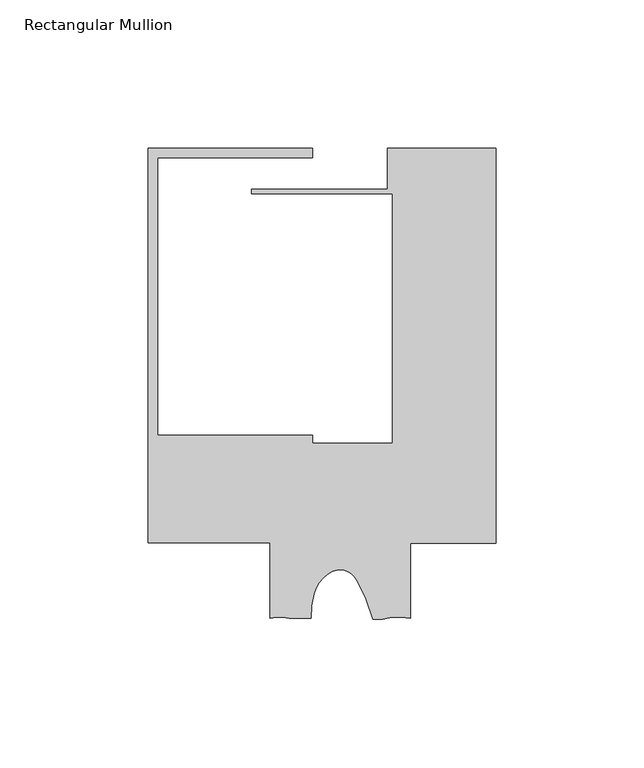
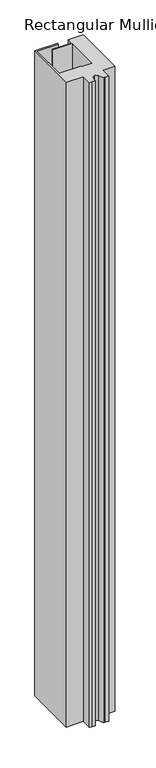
"""IFC4 building model written with IfcOpenShell, lengths in millimetres: member geometry, Rectangular Mullion : SSG Chicken Head Stack."""

import ifcopenshell
import ifcopenshell.guid

model = None  # the IFC model being written
_history = None  # IfcOwnerHistory: only IFC2X3 demands one
_inside = {}  # id of a spatial element -> (the spatial element, [elements in it])
_under = {}  # id of a project, library or spatial element -> (it, [spatial elements below it])
_declared = {}  # id of a project -> (the project, [libraries it declares])
_typed = {}  # id of a type object -> (the type object, [elements of that type])
_made_of = {}  # id of a material, layer set ... -> (it, [elements and type objects made of it])


def new_model(schema):
    """Start an empty IFC model of exactly this schema.

    Asked for "IFC4X3", IfcOpenShell would pick the latest addendum, in which some entities
    have other attributes; the version numbers below select the first issue.
    IFC2X3 requires an IfcOwnerHistory on every rooted entity: one is made here for all.
    """
    global model, _history
    if schema == "IFC4X3":
        model = ifcopenshell.file(schema_version=(4, 3, 0, 0))
    else:
        model = ifcopenshell.file(schema=schema)
    _inside.clear()
    _under.clear()
    _declared.clear()
    _typed.clear()
    _made_of.clear()
    _history = None
    if model.schema == "IFC2X3":
        org = make("IfcOrganization", Name="unknown")
        user = make(
            "IfcPersonAndOrganization",
            ThePerson=make("IfcPerson", FamilyName="unknown"),
            TheOrganization=org,
        )
        app = make(
            "IfcApplication",
            ApplicationDeveloper=org,
            Version="unknown",
            ApplicationFullName="unknown",
            ApplicationIdentifier="unknown",
        )
        _history = make(
            "IfcOwnerHistory",
            OwningUser=user,
            OwningApplication=app,
            ChangeAction="ADDED",
            CreationDate=0,
        )
    return model


def make(cls, **values):
    """One entity of the class cls with the attributes given. An attribute that is None is left unset."""
    return model.create_entity(
        cls, **{name: value for name, value in values.items() if value is not None}
    )


def rooted(cls, **values):
    """An entity with a GlobalId (a new one), such as an element, a storey or a relation."""
    return make(cls, GlobalId=ifcopenshell.guid.new(), OwnerHistory=_history, **values)


def si_unit(unit_type, name, prefix=None):
    """IfcSIUnit, for example si_unit("LENGTHUNIT", "METRE", prefix="MILLI")."""
    return make("IfcSIUnit", UnitType=unit_type, Prefix=prefix, Name=name)


def assignment(units):
    """IfcUnitAssignment: the units of a project."""
    return None if units is None else make("IfcUnitAssignment", Units=units)


def point(xyz):
    """IfcCartesianPoint."""
    return None if xyz is None else make("IfcCartesianPoint", Coordinates=xyz)


def direction(xyz):
    """IfcDirection."""
    return None if xyz is None else make("IfcDirection", DirectionRatios=xyz)


def frame(location, z_axis=None, x_axis=None):
    """IfcAxis2Placement3D, a coordinate frame: its origin and axes. An axis left out is left unset."""
    return make(
        "IfcAxis2Placement3D",
        Location=point(location),
        Axis=direction(z_axis),
        RefDirection=direction(x_axis),
    )


def frame_2d(location, x_axis=None):
    """IfcAxis2Placement2D, a coordinate frame in the plane: its origin and x axis."""
    return make(
        "IfcAxis2Placement2D", Location=point(location), RefDirection=direction(x_axis)
    )


def origin():
    """The frame at (0, 0, 0) with its axes left unset."""
    return frame((0.0, 0.0, 0.0))


def place(relative_to, where):
    """IfcLocalPlacement: puts the frame where relative to a parent placement (None: the world)."""
    return make(
        "IfcLocalPlacement", PlacementRelTo=relative_to, RelativePlacement=where
    )


def context(
    kind, dimensions, precision=None, world=None, true_north=None, identifier=None
):
    """IfcGeometricRepresentationContext, for example the 3D "Model" context."""
    return make(
        "IfcGeometricRepresentationContext",
        ContextIdentifier=identifier,
        ContextType=kind,
        CoordinateSpaceDimension=dimensions,
        Precision=precision,
        WorldCoordinateSystem=world,
        TrueNorth=true_north,
    )


def project(units=None, contexts=None):
    """IfcProject with its units and contexts."""
    return rooted(
        "IfcProject",
        Name="project",
        RepresentationContexts=contexts,
        UnitsInContext=assignment(units),
    )


def spatial(cls, under=None, at=None, **own):
    """A site, building, storey or space (cls), placed at a placement, below another one or the project."""
    s = rooted(cls, ObjectPlacement=at, **own)
    if under is not None:
        _under.setdefault(under.id(), (under, []))[1].append(s)
    return s


def polyline(points):
    """IfcPolyline through the points."""
    return make("IfcPolyline", Points=[point(p) for p in points])


def circle_curve(where, radius):
    """IfcCircle in the frame where."""
    return make("IfcCircle", Position=where, Radius=radius)


def trimmed(basis, trim1, trim2, sense, master):
    """IfcTrimmedCurve: the piece of a basis curve between two trims."""
    return make(
        "IfcTrimmedCurve",
        BasisCurve=basis,
        Trim1=trim1,
        Trim2=trim2,
        SenseAgreement=sense,
        MasterRepresentation=master,
    )


def segment(curve, same_sense, transition):
    """IfcCompositeCurveSegment."""
    return make(
        "IfcCompositeCurveSegment",
        Transition=transition,
        SameSense=same_sense,
        ParentCurve=curve,
    )


def composite_curve(segments, self_intersect=None):
    """IfcCompositeCurve: segments joined end to end."""
    return make("IfcCompositeCurve", Segments=segments, SelfIntersect=self_intersect)


def outline(outer, holes=None, kind="AREA"):
    """IfcArbitraryClosedProfileDef: a profile drawn as a closed curve; with holes, ...WithVoids."""
    if holes is None:
        return make("IfcArbitraryClosedProfileDef", ProfileType=kind, OuterCurve=outer)
    return make(
        "IfcArbitraryProfileDefWithVoids",
        ProfileType=kind,
        OuterCurve=outer,
        InnerCurves=holes,
    )


def extrude(swept, where, along, depth):
    """IfcExtrudedAreaSolid: the profile swept, set in the frame where, extruded along a direction by depth."""
    return make(
        "IfcExtrudedAreaSolid",
        SweptArea=swept,
        Position=where,
        ExtrudedDirection=direction(along),
        Depth=depth,
    )


def shape(context_of_items, identifier, shape_type, items):
    """IfcShapeRepresentation: the items that make up one representation, for example the "Body"."""
    return make(
        "IfcShapeRepresentation",
        ContextOfItems=context_of_items,
        RepresentationIdentifier=identifier,
        RepresentationType=shape_type,
        Items=items,
    )


def source(mapping_origin, context_of_items, identifier, shape_type, items):
    """IfcRepresentationMap: a shape defined once, which mapped items show again and again."""
    return make(
        "IfcRepresentationMap",
        MappingOrigin=mapping_origin,
        MappedRepresentation=shape(context_of_items, identifier, shape_type, items),
    )


def transform(
    local_origin,
    x_axis=None,
    y_axis=None,
    z_axis=None,
    scale=None,
    scale2=None,
    scale3=None,
    uniform=True,
):
    """IfcCartesianTransformationOperator3D, or its non-uniform kind. x_axis, y_axis, z_axis: its Axis1, 2, 3."""
    if uniform:
        return make(
            "IfcCartesianTransformationOperator3D",
            Axis1=direction(x_axis),
            Axis2=direction(y_axis),
            LocalOrigin=point(local_origin),
            Scale=scale,
            Axis3=direction(z_axis),
        )
    return make(
        "IfcCartesianTransformationOperator3DnonUniform",
        Axis1=direction(x_axis),
        Axis2=direction(y_axis),
        LocalOrigin=point(local_origin),
        Scale=scale,
        Axis3=direction(z_axis),
        Scale2=scale2,
        Scale3=scale3,
    )


def mapped(mapping_source, mapping_target):
    """IfcMappedItem: shows the shape of a source again, moved by a transform."""
    return make(
        "IfcMappedItem", MappingSource=mapping_source, MappingTarget=mapping_target
    )


def made_of(thing, what):
    """Note that an element or type object is made of a material, layer set ...; save() writes the relation."""
    if what is not None:
        _made_of.setdefault(what.id(), (what, []))[1].append(thing)
    return thing


def element(
    cls,
    number,
    at=None,
    inside=None,
    cuts=None,
    type_object=None,
    material=None,
    context=None,
    identifier="Body",
    shape_type=None,
    held_by="IfcProductDefinitionShape",
    body=None,
    shapes=None,
    **own,
):
    """One element of the class cls, such as IfcWall. Its Tag is "e" and its number.

    at: its placement. inside: the storey or other place that contains it. cuts: it is an
    opening in that element (IfcRelVoidsElement). A single representation is given by context,
    identifier, shape_type and body (its items); several are given by shapes. held_by: the class
    of the entity that holds the representations. save() writes the other relations.
    """
    e = rooted(cls, Tag="e%d" % number, ObjectPlacement=at, **own)
    if body is not None:
        shapes = [shape(context, identifier, shape_type, body)]
    if shapes is not None:
        e.Representation = make(held_by, Representations=shapes)
    if inside is not None:
        _inside.setdefault(inside.id(), (inside, []))[1].append(e)
    if cuts is not None:
        rooted(
            "IfcRelVoidsElement", RelatingBuildingElement=cuts, RelatedOpeningElement=e
        )
    if type_object is not None:
        _typed.setdefault(type_object.id(), (type_object, []))[1].append(e)
    return made_of(e, material)


def aggregate(whole, parts):
    """IfcRelAggregates: a whole, such as a stair, and the parts it consists of."""
    return rooted("IfcRelAggregates", RelatingObject=whole, RelatedObjects=parts)


def save(model, path):
    """Write the relations noted so far, then the file.

    IfcRelAggregates (storeys below a building ...), IfcRelContainedInSpatialStructure (elements
    in a storey), IfcRelDefinesByType, IfcRelAssociatesMaterial and IfcRelDeclares: one each for
    every whole, place, type object, material and project.
    """
    for whole, parts in _under.values():
        aggregate(whole, parts)
    for where, things in _inside.values():
        rooted(
            "IfcRelContainedInSpatialStructure",
            RelatedElements=things,
            RelatingStructure=where,
        )
    for kind, things in _typed.values():
        rooted("IfcRelDefinesByType", RelatedObjects=things, RelatingType=kind)
    for what, things in _made_of.values():
        rooted("IfcRelAssociatesMaterial", RelatedObjects=things, RelatingMaterial=what)
    for by, libraries in _declared.values():
        rooted("IfcRelDeclares", RelatingContext=by, RelatedDefinitions=libraries)
    model.write(path)


def rectangular_mullion_6bc6d00b(model_context):
    return source(origin(), model_context, "Body", "SweptSolid", [
        extrude(outline(composite_curve([segment(polyline([(-61.8998316, 114.30254), (-61.8998316, 111.1275493), (-114.2999537, 111.1275493), (-114.2999537, 17.4529386), (-61.8998316, 17.4529386), (-61.8998316, 14.7454592), (-34.9249745, 14.7454592), (-34.9249745, 98.8645), (-82.5631556, 98.8645), (-82.5631556, 100.4392965), (-36.5130248, 100.4392965), (-36.5130248, 114.30254), (0.0, 114.30254), (0.0, -19.0105392), (-28.8269516, -19.0105392), (-28.8269516, -44.4474117)]), True, "CONTINUOUS"), segment(trimmed(circle_curve(frame_2d((-33.1476014, -62.8360436)), 18.8894097), [point((-28.8269516, -44.4474117))], [point((-38.2445073, -44.6472738))], True, "CARTESIAN"), True, "CONTINUOUS"), segment(polyline([(-38.2445073, -44.6472738), (-41.5672865, -44.6472738)]), True, "CONTINUOUS"), segment(trimmed(circle_curve(frame_2d((-97.293137, -59.6417247)), 57.7079196), [point((-41.5672865, -44.6472738))], [point((-46.9720625, -31.3929471))], True, "CARTESIAN"), True, "CONTINUOUS"), segment(trimmed(circle_curve(frame_2d((-52.6525939, -34.6082248)), 6.5273615), [point((-46.9720625, -31.3929471))], [point((-55.1040936, -28.5587126))], True, "CARTESIAN"), True, "CONTINUOUS"), segment(trimmed(circle_curve(frame_2d((-50.1789816, -39.0935196)), 11.6292255), [point((-55.1040936, -28.5587126))], [point((-61.4242559, -36.1299588))], True, "CARTESIAN"), True, "CONTINUOUS"), segment(trimmed(circle_curve(frame_2d((-34.9526432, -43.4006193)), 27.4519359), [point((-61.4242559, -36.1299588))], [point((-62.3846191, -44.4472729))], True, "CARTESIAN"), True, "CONTINUOUS"), segment(polyline([(-62.3846191, -44.4472729), (-69.8380861, -44.4472729)]), True, "CONTINUOUS"), segment(trimmed(circle_curve(frame_2d((-73.0099098, -56.9363285)), 12.8855336), [point((-69.8380861, -44.4472729))], [point((-76.1936616, -44.4503083))], True, "CARTESIAN"), True, "CONTINUOUS"), segment(polyline([(-76.1936616, -44.4503083), (-76.1936616, -18.9749813), (-117.475, -18.9749813), (-117.475, 114.30254), (-61.8998316, 114.30254)]), True, "CONTINUOUS")], self_intersect=False)), frame((0.0, 0.0, -1663.6794337), z_axis=(0.0, 0.0, 1.0), x_axis=(1.0, 0.0, 0.0)), (0.0, 0.0, 1.0), 1663.6794337),
    ])


if __name__ == "__main__":
    model = new_model("IFC4")
    model_context = context("Model", 3, world=origin())
    ifc_project = project(units=[si_unit("LENGTHUNIT", "METRE", prefix="MILLI")], contexts=[model_context])
    site = spatial("IfcSite", under=ifc_project)
    building = spatial("IfcBuilding", under=site)
    placement = place(None, origin())
    rectangular_mullion_shape = rectangular_mullion_6bc6d00b(model_context)
    element("IfcMember", 1, ObjectType="Rectangular Mullion : SSG Chicken Head Stack", at=placement, inside=building, context=model_context, shape_type="MappedRepresentation", body=[
        mapped(rectangular_mullion_shape, transform((0.0, 0.0, 0.0), x_axis=(1.0, 0.0, 0.0), y_axis=(0.0, 1.0, 0.0), z_axis=(0.0, 0.0, 1.0))),
    ])
    save(model, "model.ifc")
